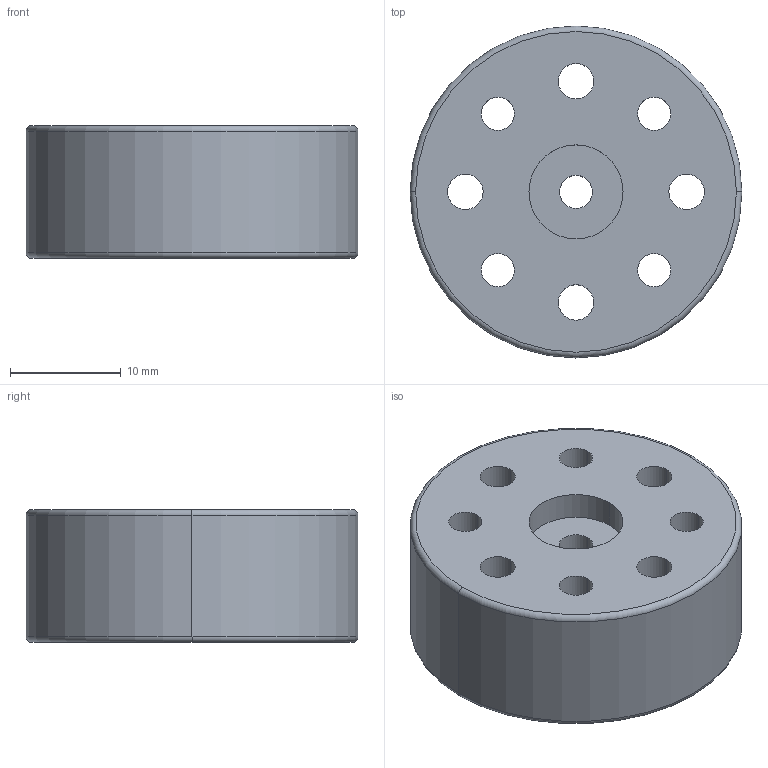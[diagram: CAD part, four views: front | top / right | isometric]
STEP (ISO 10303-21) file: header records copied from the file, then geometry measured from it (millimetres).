
FILE_DESCRIPTION(('CATIA V5 STEP Exchange'),'2;1');
FILE_NAME('E:\够快云库\系统集成开发部\1.部门成员\姚明阳\工装\升降气阀工装零件3D数模_20.10.20.02\GZ07.13_V1.stp','2020-10-22T04:34:22+00:00',('none'),('none'),'CATIA Version 5 Release 21 GA (IN-10)','CATIA V5 STEP AP214','none');
FILE_SCHEMA(('AUTOMOTIVE_DESIGN { 1 0 10303 214 1 1 1 1 }'));
Length unit declared in the file: millimetre
Products named in the file (1): GZ07.13_V1
Bounding box: 30 x 30 x 12 mm (x, y, z)
Volume: 6568.9 mm3; surface area: 3840.7 mm2
Topology: 1 solids, 1 shells, 44 faces, 104 edges, 68 vertices
Faces by surface type: cylinder 32, plane 8, torus 4
Entity records: 1223 total; most frequent: CARTESIAN_POINT 226, ORIENTED_EDGE 208, DIRECTION 152, EDGE_CURVE 104, AXIS2_PLACEMENT_3D 96, CIRCLE 70, EDGE_LOOP 68, VERTEX_POINT 68
